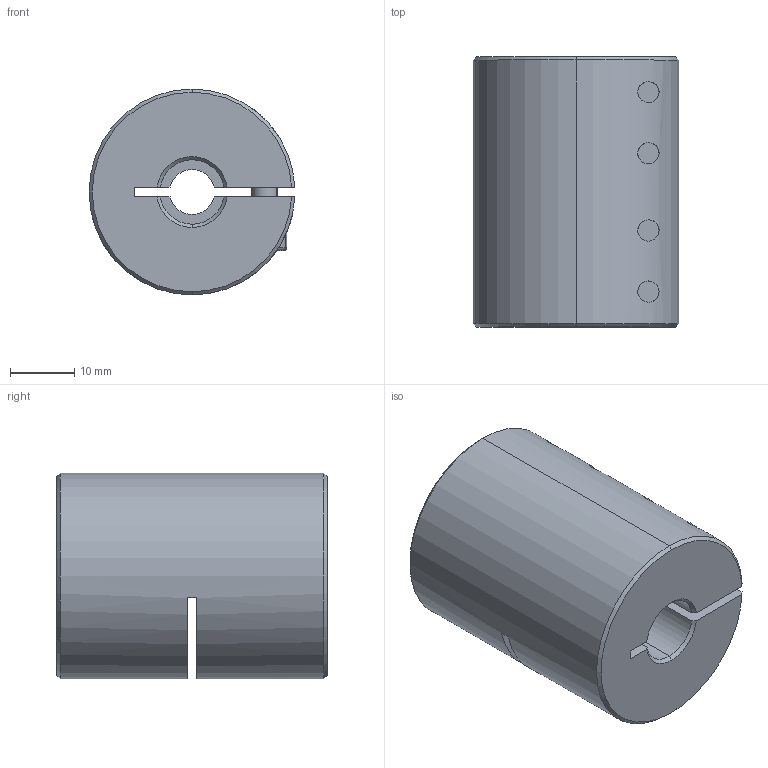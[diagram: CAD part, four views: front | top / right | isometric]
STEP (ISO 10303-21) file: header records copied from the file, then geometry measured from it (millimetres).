
FILE_DESCRIPTION (( 'STEP AP203' ), '1' );
FILE_NAME ('LL-B-D32L42-7-10.STEP', '2021-11-05T07:41:01', ( '' ), ( '' ), 'SwSTEP 2.0', 'SolidWorks 2018', '' );
FILE_SCHEMA (( 'CONFIG_CONTROL_DESIGN' ));
Length unit declared in the file: millimetre
Products named in the file (1): LL-B-D32L42-7-10
Bounding box: 31.98 x 42 x 32 mm (x, y, z)
Volume: 28825.2 mm3; surface area: 10310.1 mm2
Topology: 1 solids, 1 shells, 193 faces, 492 edges, 309 vertices
Faces by surface type: plane 88, cylinder 77, cone 20, torus 8
Entity records: 6376 total; most frequent: CARTESIAN_POINT 1559, DIRECTION 1037, ORIENTED_EDGE 968, EDGE_CURVE 484, AXIS2_PLACEMENT_3D 403, VERTEX_POINT 309, LINE 231, VECTOR 231
